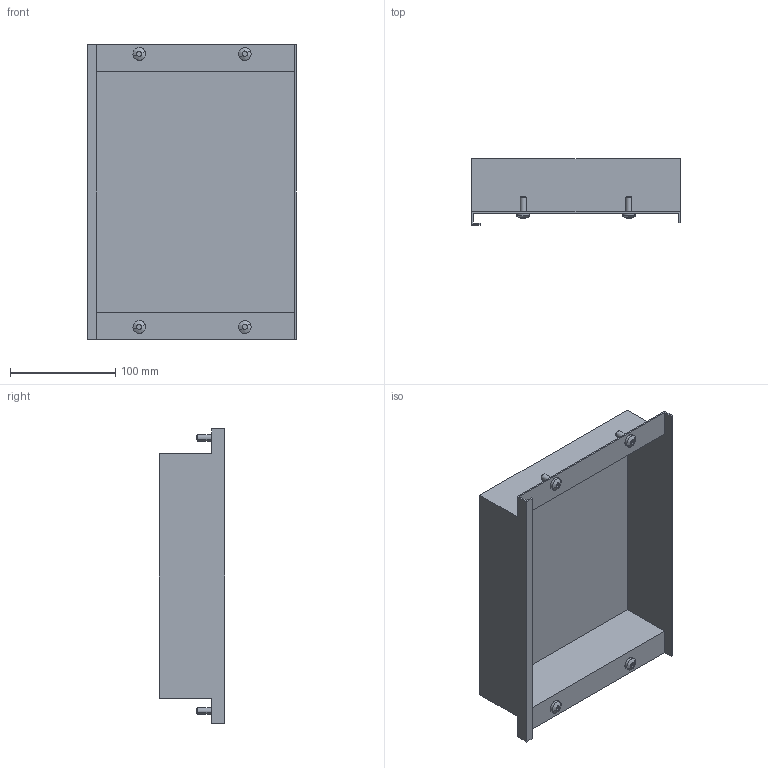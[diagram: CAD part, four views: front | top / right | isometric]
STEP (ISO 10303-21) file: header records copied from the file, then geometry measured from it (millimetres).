
FILE_DESCRIPTION (( 'STEP AP214' ), '1' );
FILE_NAME ('FO-00-PVSU-020-040 Ïëàñòðîí âíóòðåííèé óãëóáëåííûé 200õ400õ50.STEP', '2025-09-30T08:12:47', ( '' ), ( '' ), 'SwSTEP 2.0', 'SolidWorks 2023', '' );
FILE_SCHEMA (( 'AUTOMOTIVE_DESIGN' ));
Length unit declared in the file: millimetre
Products named in the file (3): Винты М6х16 20-40; FO-00-PVSU-020-040 Пластрон внутренний углубленный 200х400х50
Assembly tree (3 placements, depth 2):
  FO-00-PVSU-020-040 Пластрон внутренний углубленный 200х400х50
    FO-00-PVSU-020-040 Пластрон внутренний углубленный 200х400х50
    Винты М6х16 20-40  x2
Bounding box: 198 x 62.5 x 279 mm (x, y, z)
Volume: 150301.3 mm3; surface area: 214398.6 mm2
Topology: 5 solids, 5 shells, 156 faces, 410 edges, 268 vertices
Faces by surface type: cylinder 88, plane 48, cone 12, bspline 8
Entity records: 3431 total; most frequent: CARTESIAN_POINT 760, ORIENTED_EDGE 548, DIRECTION 530, EDGE_CURVE 274, AXIS2_PLACEMENT_3D 186, VERTEX_POINT 180, VECTOR 158, LINE 158
